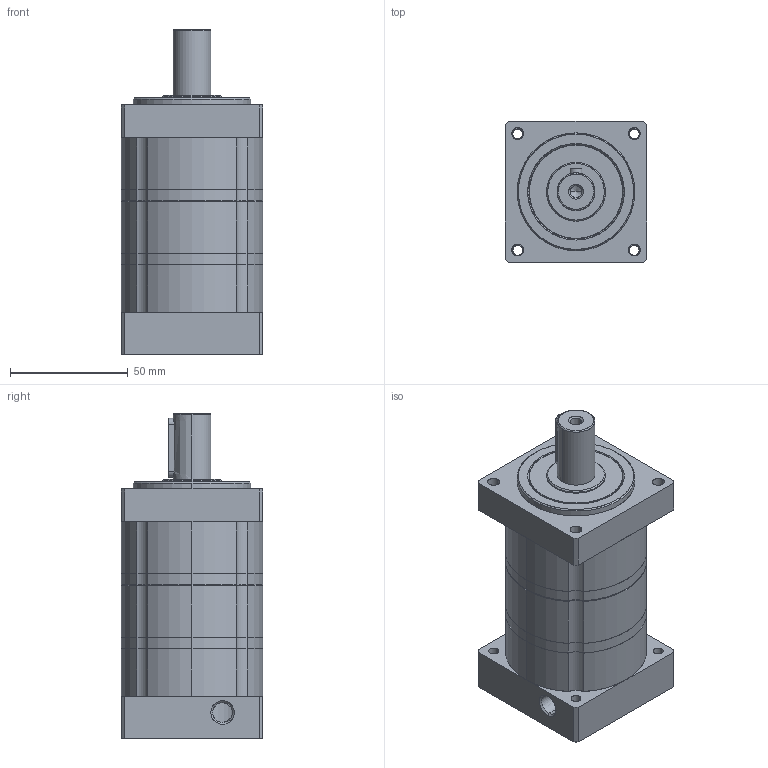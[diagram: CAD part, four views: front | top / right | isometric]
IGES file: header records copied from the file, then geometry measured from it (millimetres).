
Start section: SolidWorks IGES file using analytic representation for surfaces
Global section: file name: Z:\CAD Files\Gearboxes\S-Gearboxes\LX-060-025\LX-060-025-Rev1.IGS; native system: SolidWorks 2014; preprocessor: SolidWorks 2014; author: RENDER; date: 140626.115522; units: millimetre
Bounding box: 60 x 60 x 138 mm (x, y, z)
Surface area: 73440.2 mm2 (no closed solid volume)
Topology: 0 solids, 0 shells, 206 faces, 4313 edges, 4311 vertices
Faces by surface type: revolution 159, bspline 47
